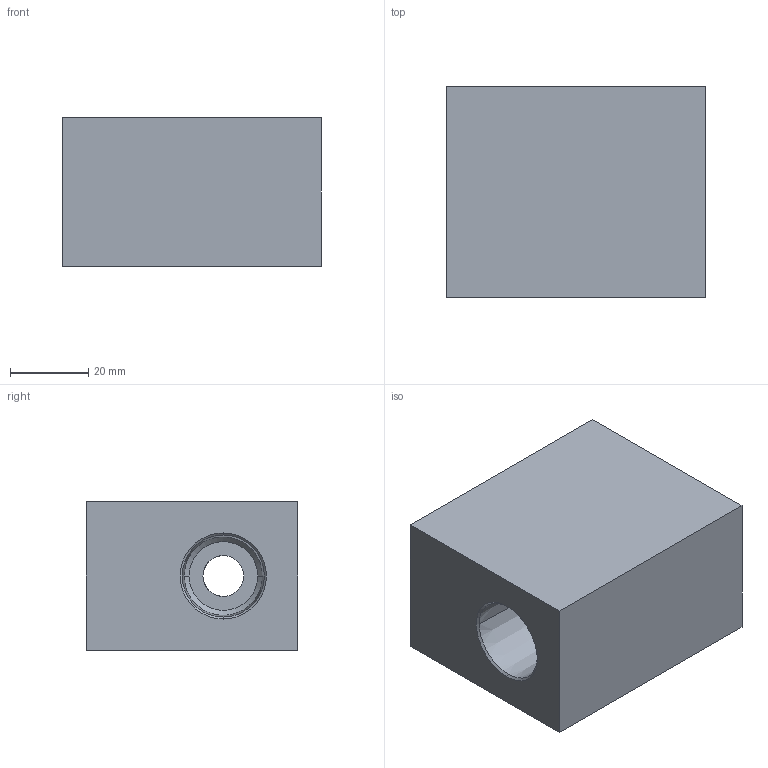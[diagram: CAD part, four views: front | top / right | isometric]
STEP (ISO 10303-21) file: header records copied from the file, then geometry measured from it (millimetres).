
FILE_DESCRIPTION (( 'STEP AP203' ), '1' );
FILE_NAME ('FTNTS08.STEP', '2026-06-26T01:41:15', ( 'USER' ), ( '' ), 'SwSTEP 2.0', 'SolidWorks 2023', '' );
FILE_SCHEMA (( 'CONFIG_CONTROL_DESIGN' ));
Length unit declared in the file: millimetre
Products named in the file (1): FTNTS08
Bounding box: 66 x 54 x 38 mm (x, y, z)
Volume: 112497.5 mm3; surface area: 20714.6 mm2
Topology: 1 solids, 1 shells, 37 faces, 87 edges, 54 vertices
Faces by surface type: cone 18, cylinder 10, plane 9
Entity records: 1152 total; most frequent: DIRECTION 201, CARTESIAN_POINT 191, ORIENTED_EDGE 174, EDGE_CURVE 87, AXIS2_PLACEMENT_3D 80, VERTEX_POINT 54, EDGE_LOOP 43, CIRCLE 42
